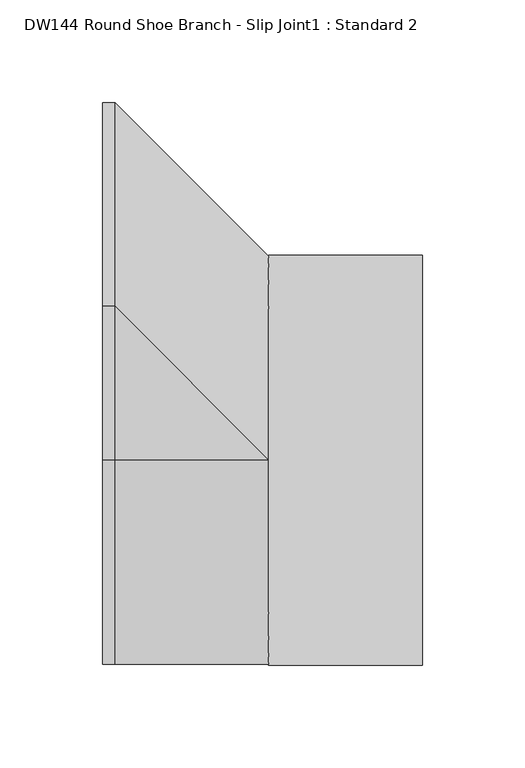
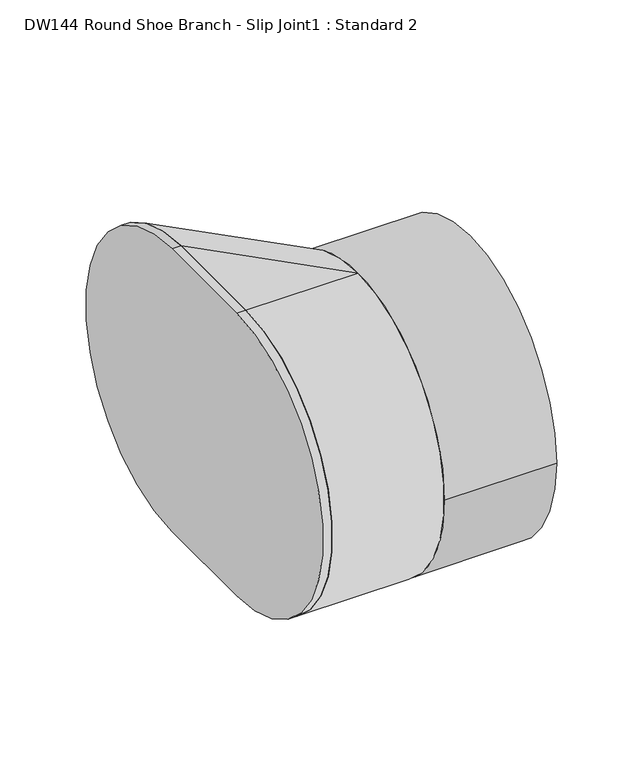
"""IFC4 building model written with IfcOpenShell, lengths in millimetres: duct fitting geometry, DW144 Round Shoe Branch - Slip Joint1 : Standard 2."""

from ifc_helpers import new_model, si_unit, point, frame, frame_2d, origin, origin_2d, place, context, project, spatial, polyline, circle_curve, trimmed, segment, composite_curve, outline, extrude, source, transform, mapped, element, save
from ifc_brep_helpers import plane_surface, cylinder_surface, extruded_surface, advanced_brep


def dw144_round_shoe_branch_slip_joint1_standard_2_0a6a2502(model_context):
    return source(origin(), model_context, "Body", "SolidModel", [
        extrude(outline(composite_curve([segment(trimmed(circle_curve(origin_2d(), 100.0), [point((100.0, 0.0))], [point((-100.0, 0.0))], False, "CARTESIAN"), True, "CONTINUOUS"), segment(trimmed(circle_curve(origin_2d(), 100.0), [point((-100.0, 0.0))], [point((100.0, 0.0))], False, "CARTESIAN"), True, "CONTINUOUS")], self_intersect=False)), frame((75.0, 0.0, 0.0), z_axis=(1.0, 0.0, 0.0), x_axis=(0.0, 1.0, 0.0)), (0.0, 0.0, 1.0), 75.0),
        advanced_brep(
        [(75.0, 0.0, -100.0), (75.0, 0.0, 100.0), (0.0, 0.0, -100.0), (0.0, 0.0, 100.0), (0.0, 75.0, 100.0), (0.0, 75.0, -100.0)],
        [
            (0, 1, circle_curve(frame((75.0, 0.0, 0.0), z_axis=(1.0, 0.0, 0.0), x_axis=(0.0, -1.0, 0.0)), 100.0)),
            (1, 0, circle_curve(frame((75.0, 0.0, 0.0), z_axis=(1.0, 0.0, 0.0), x_axis=(0.0, -1.0, 0.0)), 100.0)),
            (2, 3, circle_curve(frame((0.0, 0.0, 0.0), z_axis=(-1.0, 0.0, 0.0), x_axis=(0.0, -1.0, 0.0)), 100.0)),
            (3, 4),
            (4, 5, circle_curve(frame((0.0, 75.0, 0.0), z_axis=(-1.0, 0.0, 0.0), x_axis=(0.0, -1.0, 0.0)), 100.0)),
            (5, 2),
            (2, 0),
            (1, 3),
            (1, 4),
            (0, 5),
        ],
        [
            plane_surface(frame((75.0, 0.0, 0.0), z_axis=(1.0, 0.0, 0.0), x_axis=(0.0, -1.0, 0.0))),
            plane_surface(frame((0.0, 37.5, 0.0), z_axis=(-1.0, 0.0, 0.0), x_axis=(0.0, -1.0, 0.0))),
            cylinder_surface(frame((0.0, 0.0, 0.0), z_axis=(1.0, 0.0, 0.0), x_axis=(0.0, -1.0, 0.0)), 100.0),
            plane_surface(frame((0.0, 37.5, 100.0), z_axis=(0.0, 0.0, 1.0), x_axis=(0.0, 1.0, 0.0))),
            extruded_surface(trimmed(circle_curve(frame((75.0, 0.0, 0.0), z_axis=(-1.0, 0.0, 0.0), x_axis=(0.0, -1.0, 0.0)), 100.0), [point((75.0, 0.0, 100.0))], [point((75.0, 0.0, -100.0))], True, "CARTESIAN"), (-75.0, 75.0, 0.0), 106.06601717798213),
            plane_surface(frame((0.0, 37.5, -100.0), z_axis=(0.0, 0.0, -1.0), x_axis=(0.0, -1.0, 0.0))),
        ],
        [
            (0, [[1, 2]]),
            (1, [[3, 4, 5, 6]]),
            (2, [[7, -2, 8, -3]]),
            (3, [[-8, 9, -4]]),
            (4, [[-9, -1, 10, -5]]),
            (5, [[-10, -7, -6]]),
        ],
    ),
        extrude(outline(composite_curve([segment(trimmed(circle_curve(origin_2d(), 100.0), [point((0.0, -100.0))], [point((0.0, 100.0))], False, "CARTESIAN"), True, "CONTINUOUS"), segment(polyline([(0.0, 100.0), (75.0, 100.0)]), True, "CONTINUOUS"), segment(trimmed(circle_curve(frame_2d((75.0, 0.0)), 100.0), [point((75.0, 100.0))], [point((75.0, -100.0))], False, "CARTESIAN"), True, "CONTINUOUS"), segment(polyline([(75.0, -100.0), (0.0, -100.0)]), True, "CONTINUOUS")], self_intersect=False)), frame((-6.0960003, 0.0, 0.0), z_axis=(1.0, 0.0, 0.0), x_axis=(0.0, 1.0, 0.0)), (0.0, 0.0, 1.0), 6.0960003),
    ])


if __name__ == "__main__":
    model = new_model("IFC4")
    model_context = context("Model", 3, world=origin())
    ifc_project = project(units=[si_unit("LENGTHUNIT", "METRE", prefix="MILLI")], contexts=[model_context])
    site = spatial("IfcSite", under=ifc_project)
    building = spatial("IfcBuilding", under=site)
    placement = place(None, origin())
    dw144_round_shoe_branch_slip_joint1_standard_2_shape = dw144_round_shoe_branch_slip_joint1_standard_2_0a6a2502(model_context)
    element("IfcDuctFitting", 1, ObjectType="DW144 Round Shoe Branch - Slip Joint1 : Standard 2", at=placement, inside=building, context=model_context, shape_type="MappedRepresentation", body=[
        mapped(dw144_round_shoe_branch_slip_joint1_standard_2_shape, transform((0.0, 0.0, 0.0), x_axis=(1.0, 0.0, 0.0), y_axis=(0.0, 1.0, 0.0), z_axis=(0.0, 0.0, 1.0))),
    ])
    save(model, "model.ifc")
